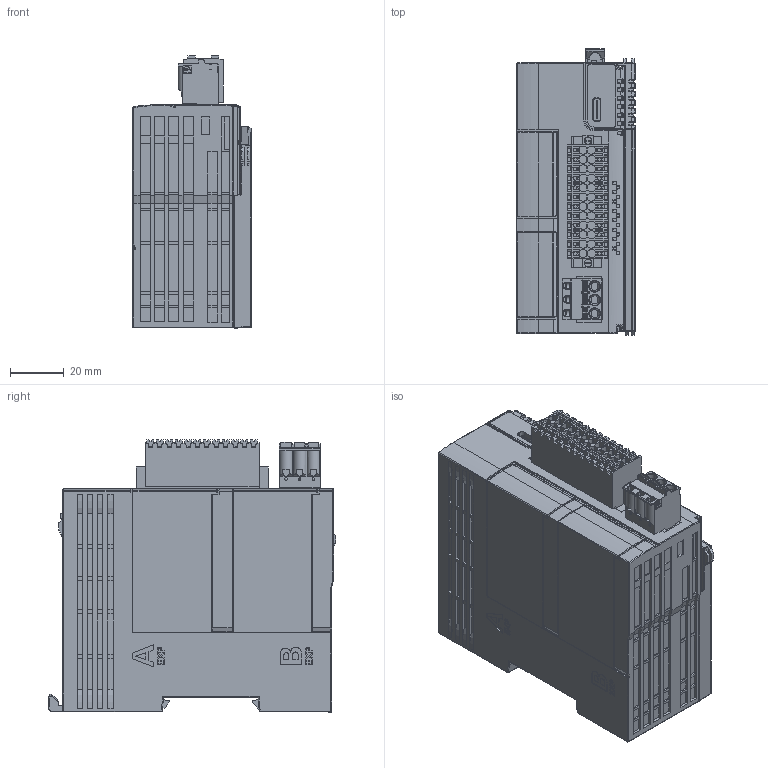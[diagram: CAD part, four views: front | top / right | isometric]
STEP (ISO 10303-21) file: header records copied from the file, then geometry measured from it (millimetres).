
FILE_DESCRIPTION((''),'2;1');
FILE_NAME('EASY302_ASM','2022-06-29T',('10004338'),(''),'CREO PARAMETRIC BY PTC INC, 2015290','CREO PARAMETRIC BY PTC INC, 2015290','');
FILE_SCHEMA(('AUTOMOTIVE_DESIGN { 1 0 10303 214 1 1 1 1 }'));
Products named in the file (3): EASY_302; 20212484; EASY302_ASM
Assembly tree (2 placements, depth 2):
  EASY302_ASM
    EASY_302
    20212484
Bounding box: 44 x 106.94 x 101.37 mm (x, y, z)
Volume: 342811.5 mm3; surface area: 75909.3 mm2
Topology: 2 solids, 8 shells, 5986 faces, 16362 edges, 10505 vertices
Faces by surface type: plane 3959, cylinder 1394, bspline 373, torus 126, extrusion 78, sphere 36, cone 20
Entity records: 242992 total; most frequent: CARTESIAN_POINT 94055, ORIENTED_EDGE 32676, DIRECTION 28225, EDGE_CURVE 16338, VECTOR 12093, LINE 12015, VERTEX_POINT 10505, AXIS2_PLACEMENT_3D 8066
